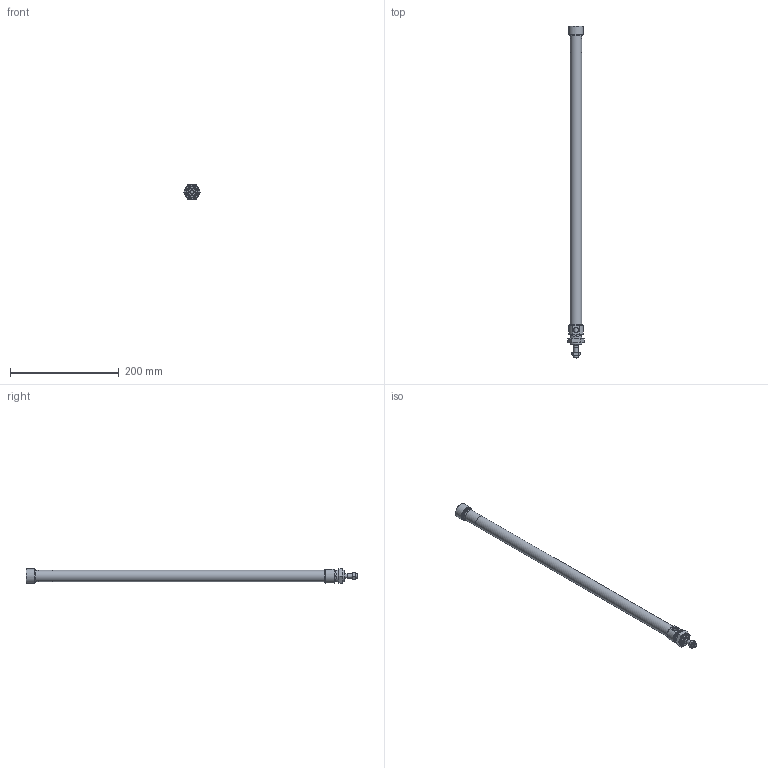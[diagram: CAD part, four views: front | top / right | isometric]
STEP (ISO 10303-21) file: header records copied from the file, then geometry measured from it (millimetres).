
FILE_DESCRIPTION(/* description */ ('Unknown'),/* implementation_level */ '2;1');
FILE_NAME(/* name */ 'RIMA 20_500',/* time_stamp */ '2024-08-30T13:23:52+02:00',/* author */ ('Unknown'),/* organization */ ('Unknown'),/* preprocessor_version */ 'ST-DEVELOPER v16.7',/* originating_system */ 'Solid Edge',/* authorisation */ 'Unknown');
FILE_SCHEMA (('AUTOMOTIVE_DESIGN {1 0 10303 214 3 1 1}'));
Length unit declared in the file: millimetre
Products named in the file (7): RIMA 20_500; Profilrohr; Kolbenstange; Kit_1; Kit_2; Mutter_1; Mutter_2
Assembly tree (6 placements, depth 2):
  RIMA 20_500
    Profilrohr
    Kolbenstange
    Kit_1
    Kit_2
    Mutter_1
    Mutter_2
Bounding box: 31.18 x 611 x 27 mm (x, y, z)
Volume: 87427.2 mm3; surface area: 96264.7 mm2
Topology: 6 solids, 6 shells, 121 faces, 240 edges, 148 vertices
Faces by surface type: plane 47, cone 39, cylinder 28, torus 7
Full cylindrical faces by diameter (mm): 1.7 x1, 6.647 x1, 8 x2, 8.5 x1, 8.56 x2, 8.566 x2, 9.1 x1, 12 x1, 12.1 x1, 14.1 x1, 14.2 x1, 17.9 x1, 19.7 x1, 20 x3, 20.376 x1, 21.27 x1, 22 x2, 22.2 x2, 27 x1
Entity records: 3667 total; most frequent: CARTESIAN_POINT 540, DIRECTION 488, ORIENTED_EDGE 340, AXIS2_PLACEMENT_3D 230, EDGE_LOOP 204, FACE_BOUND 204, EDGE_CURVE 170, VERTEX_POINT 136
